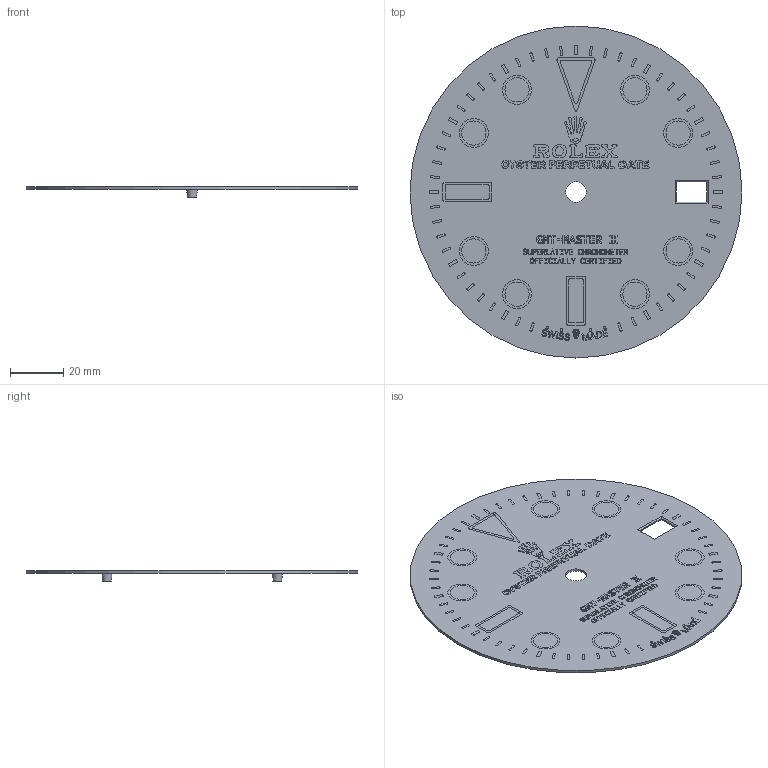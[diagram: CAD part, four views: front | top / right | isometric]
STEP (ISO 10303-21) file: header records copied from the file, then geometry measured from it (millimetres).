
FILE_DESCRIPTION(/* description */ ('STEP AP242','CAx-IF Rec.Pracs.---Representation and Presentation of Product Manufacturing Information (PMI)---4.0---2014-10-13','CAx-IF Rec.Pracs.---3D Tessellated Geometry---0.4---2014-09-14','2;1'),/* implementation_level */ '2;1');
FILE_NAME(/* name */ '66d33bb8da23292865c4fd82',/* time_stamp */ '2024-08-31T15:50:26Z',/* author */ (''),/* organization */ (''),/* preprocessor_version */ 'ST-DEVELOPER v20',/* originating_system */ ' ',/* authorisation */ ' ');
FILE_SCHEMA (('AP242_MANAGED_MODEL_BASED_3D_ENGINEERING_MIM_LF { 1 0 10303 442 1 1 4 }'));
Products named in the file (168): face; dottouter; triangleouter; smalldot; triangle; minutes; hours; dottouther; dott; dialtext; swissmade; siwssmade; smallcrown; smalldott
Bounding box: 125 x 125 x 4 mm (x, y, z)
Volume: 12194.8 mm3; surface area: 29936.1 mm2
Topology: 168 solids, 168 shells, 5572 faces, 15146 edges, 10096 vertices
Faces by surface type: plane 3560, cylinder 1452, bspline 558, cone 2
Full cylindrical faces by diameter (mm): 7.8 x1, 9.1 x16, 10.9 x16, 125 x1
Entity records: 181830 total; most frequent: CARTESIAN_POINT 37628, ORIENTED_EDGE 30220, DIRECTION 27346, EDGE_CURVE 15110, LINE 11086, VECTOR 11086, VERTEX_POINT 10096, AXIS2_PLACEMENT_3D 8130
